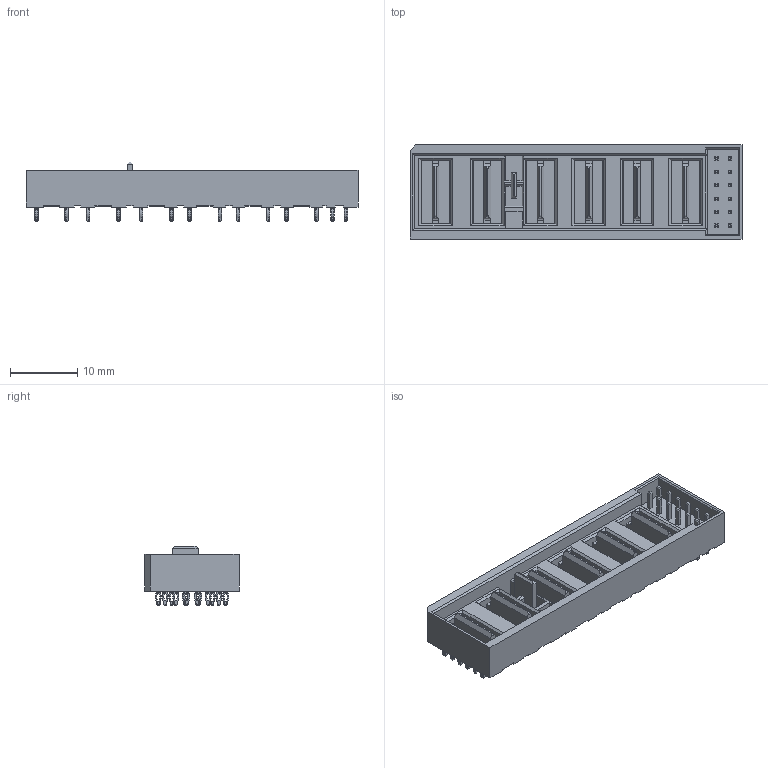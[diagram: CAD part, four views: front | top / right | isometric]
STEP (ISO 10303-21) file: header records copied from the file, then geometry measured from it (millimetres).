
FILE_DESCRIPTION (( 'STEP AP203' ), '1' );
FILE_NAME ('9113-F16S12CB30PN1SG1A.STEP', '2018-03-26T03:48:43', ( '' ), ( '' ), 'SwSTEP 2.0', 'SolidWorks 2011', '' );
FILE_SCHEMA (( 'CONFIG_CONTROL_DESIGN' ));
Products named in the file (1): 9113-F16S12CB30PN1SG1A
Bounding box: 49.4 x 14 x 8.9 mm (x, y, z)
Volume: 2017 mm3; surface area: 3935.3 mm2
Topology: 1 solids, 1 shells, 4356 faces, 11103 edges, 6754 vertices
Faces by surface type: cylinder 1608, plane 1548, torus 1152, bspline 48
Entity records: 133060 total; most frequent: CARTESIAN_POINT 27302, DIRECTION 23129, ORIENTED_EDGE 22206, EDGE_CURVE 11103, AXIS2_PLACEMENT_3D 8845, VERTEX_POINT 6754, LINE 5439, VECTOR 5439
